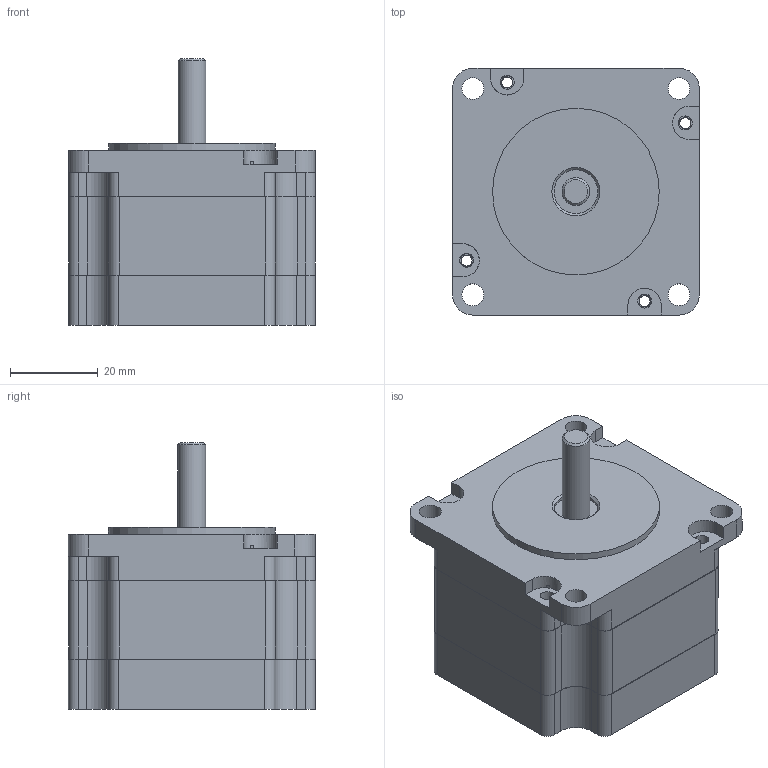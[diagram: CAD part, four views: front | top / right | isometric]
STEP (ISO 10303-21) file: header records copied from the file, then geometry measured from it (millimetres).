
FILE_DESCRIPTION(/* description */ (''),/* implementation_level */ '2;1');
FILE_NAME(/* name */ 'C:\Users\raffaele\Downloads\Projects\E&D\ipt-to-step-conversion\SLDPRT to STP\57SH41.stp',/* time_stamp */ '2021-04-07T17:16:25+02:00',/* author */ ('raffaele'),/* organization */ (''),/* preprocessor_version */ 'ST-DEVELOPER v18.1',/* originating_system */ 'Autodesk Inventor 2021',/* authorisation */ '');
FILE_SCHEMA (('AUTOMOTIVE_DESIGN { 1 0 10303 214 3 1 1 }'));
Length unit declared in the file: inch
Products named in the file (1): 57SH41
Bounding box: 56.44 x 56.51 x 61 mm (x, y, z)
Surface area: 20166.6 mm2 (no closed solid volume)
Topology: 0 solids, 6 shells, 125 faces, 393 edges, 274 vertices
Faces by surface type: plane 62, cylinder 61, cone 2
Full cylindrical faces by diameter (mm): 2.5 x4, 3.2 x4, 5 x4, 6.35 x1, 10 x1, 11 x1, 33.35 x1, 38.1 x1
Entity records: 4710 total; most frequent: DIRECTION 810, CARTESIAN_POINT 793, ORIENTED_EDGE 733, EDGE_CURVE 393, AXIS2_PLACEMENT_3D 291, VERTEX_POINT 274, LINE 228, VECTOR 228
